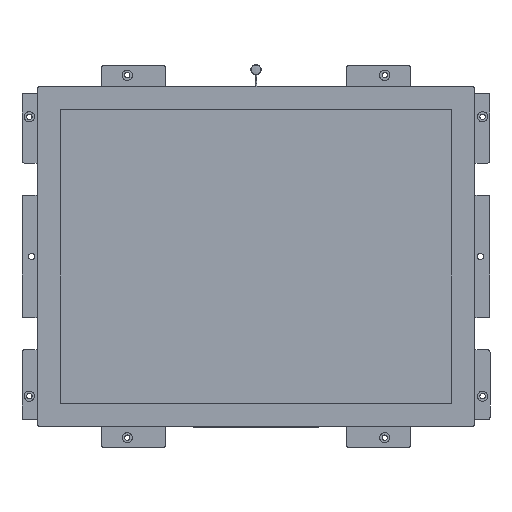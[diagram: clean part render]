
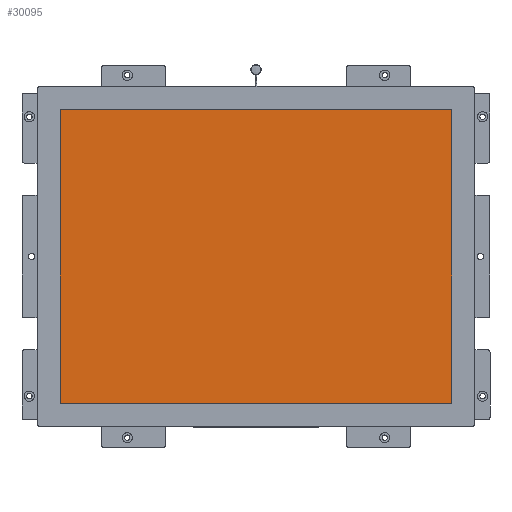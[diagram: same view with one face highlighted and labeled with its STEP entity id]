
A CAD part, top view. The second image highlights one B-rep face of the part: STEP entity #30095.
In plain terms, the highlighted planar face has unit normal (0, 0, 1) as drawn and (0, 1, 0) by its records, which use the part's own axes.
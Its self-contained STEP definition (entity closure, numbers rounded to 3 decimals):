
#87 = EDGE_CURVE ( 'NONE', #50114, #80525, #39780, .T. ) ;
#6465 = DIRECTION ( 'NONE',  ( 1., 0., 0. ) ) ;
#7435 = VECTOR ( 'NONE', #6465, 1000. ) ;
#11587 = VERTEX_POINT ( 'NONE', #69289 ) ;
#13933 = LINE ( 'NONE', #109721, #76773 ) ;
#16995 = CARTESIAN_POINT ( 'NONE',  ( -152., 27.19, 114. ) ) ;
#17197 = ORIENTED_EDGE ( 'NONE', *, *, #116972, .T. ) ;
#20294 = LINE ( 'NONE', #96161, #77286 ) ;
#23471 = ORIENTED_EDGE ( 'NONE', *, *, #87, .T. ) ;
#30095 = ADVANCED_FACE ( 'NONE', ( #108476 ), #59421, .F. ) ;
#38495 = CARTESIAN_POINT ( 'NONE',  ( 0., 27.19, -114. ) ) ;
#39780 = LINE ( 'NONE', #136287, #7435 ) ;
#45322 = AXIS2_PLACEMENT_3D ( 'NONE', #133946, #93424, #58025 ) ;
#47676 = EDGE_CURVE ( 'NONE', #11587, #50114, #13933, .T. ) ;
#50114 = VERTEX_POINT ( 'NONE', #16995 ) ;
#56244 = DIRECTION ( 'NONE',  ( 0., 0., -1. ) ) ;
#58025 = DIRECTION ( 'NONE',  ( 0., 0., -1. ) ) ;
#59421 = PLANE ( 'NONE',  #45322 ) ;
#61064 = CARTESIAN_POINT ( 'NONE',  ( 152., 27.19, -114. ) ) ;
#64976 = ORIENTED_EDGE ( 'NONE', *, *, #47676, .T. ) ;
#69289 = CARTESIAN_POINT ( 'NONE',  ( -152., 27.19, -114. ) ) ;
#76773 = VECTOR ( 'NONE', #112509, 1000. ) ;
#77286 = VECTOR ( 'NONE', #56244, 1000. ) ;
#80525 = VERTEX_POINT ( 'NONE', #108437 ) ;
#81749 = DIRECTION ( 'NONE',  ( -1., 0., 0. ) ) ;
#92416 = LINE ( 'NONE', #38495, #105419 ) ;
#93424 = DIRECTION ( 'NONE',  ( 0., -1., 0. ) ) ;
#96161 = CARTESIAN_POINT ( 'NONE',  ( 152., 27.19, 0. ) ) ;
#97947 = VERTEX_POINT ( 'NONE', #61064 ) ;
#100460 = ORIENTED_EDGE ( 'NONE', *, *, #127345, .T. ) ;
#105419 = VECTOR ( 'NONE', #81749, 1000. ) ;
#108437 = CARTESIAN_POINT ( 'NONE',  ( 152., 27.19, 114. ) ) ;
#108476 = FACE_OUTER_BOUND ( 'NONE', #138460, .T. ) ;
#109721 = CARTESIAN_POINT ( 'NONE',  ( -152., 27.19, 0. ) ) ;
#112509 = DIRECTION ( 'NONE',  ( 0., 0., 1. ) ) ;
#116972 = EDGE_CURVE ( 'NONE', #97947, #11587, #92416, .T. ) ;
#127345 = EDGE_CURVE ( 'NONE', #80525, #97947, #20294, .T. ) ;
#133946 = CARTESIAN_POINT ( 'NONE',  ( 0., 27.19, 0. ) ) ;
#136287 = CARTESIAN_POINT ( 'NONE',  ( 0., 27.19, 114. ) ) ;
#138460 = EDGE_LOOP ( 'NONE', ( #17197, #64976, #23471, #100460 ) ) ;
